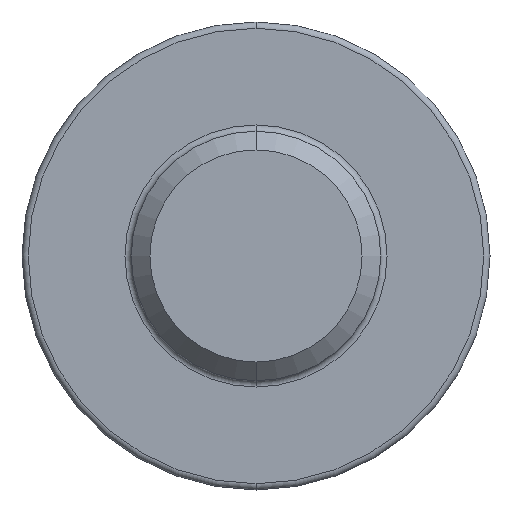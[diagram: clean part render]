
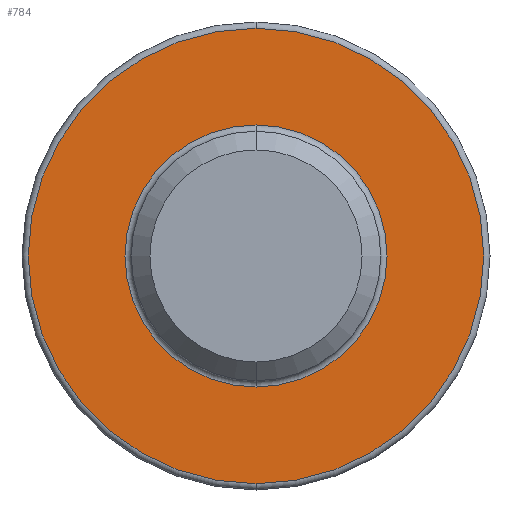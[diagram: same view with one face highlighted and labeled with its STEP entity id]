
A CAD part, front view. The second image highlights one B-rep face of the part: STEP entity #784.
In plain terms, the highlighted planar face has unit normal (0, -1, 0).
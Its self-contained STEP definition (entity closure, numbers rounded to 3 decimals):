
#47 = EDGE_CURVE ( 'NONE', #586, #352, #636, .T. ) ;
#57 = AXIS2_PLACEMENT_3D ( 'NONE', #191, #854, #395 ) ;
#65 = CARTESIAN_POINT ( 'NONE',  ( 0., -2.4, 2.1 ) ) ;
#72 = DIRECTION ( 'NONE',  ( 0., 0., 1. ) ) ;
#114 = DIRECTION ( 'NONE',  ( 0., 0., 1. ) ) ;
#120 = VERTEX_POINT ( 'NONE', #413 ) ;
#139 = DIRECTION ( 'NONE',  ( 0., -1., 0. ) ) ;
#145 = ORIENTED_EDGE ( 'NONE', *, *, #47, .T. ) ;
#166 = AXIS2_PLACEMENT_3D ( 'NONE', #666, #657, #800 ) ;
#170 = ORIENTED_EDGE ( 'NONE', *, *, #533, .T. ) ;
#191 = CARTESIAN_POINT ( 'NONE',  ( 2., -2.4, 0. ) ) ;
#197 = DIRECTION ( 'NONE',  ( 0., 1., 0. ) ) ;
#234 = CIRCLE ( 'NONE', #166, 3.65 ) ;
#278 = ORIENTED_EDGE ( 'NONE', *, *, #804, .T. ) ;
#300 = AXIS2_PLACEMENT_3D ( 'NONE', #798, #197, #72 ) ;
#304 = DIRECTION ( 'NONE',  ( 0., 1., 0. ) ) ;
#336 = EDGE_CURVE ( 'NONE', #352, #586, #485, .T. ) ;
#352 = VERTEX_POINT ( 'NONE', #572 ) ;
#392 = DIRECTION ( 'NONE',  ( 0., 0., 1. ) ) ;
#393 = ORIENTED_EDGE ( 'NONE', *, *, #336, .T. ) ;
#395 = DIRECTION ( 'NONE',  ( 0., 0., 1. ) ) ;
#413 = CARTESIAN_POINT ( 'NONE',  ( 0., -2.4, 3.65 ) ) ;
#435 = CARTESIAN_POINT ( 'NONE',  ( 0., -2.4, 0. ) ) ;
#444 = VERTEX_POINT ( 'NONE', #811 ) ;
#485 = CIRCLE ( 'NONE', #528, 2.1 ) ;
#488 = AXIS2_PLACEMENT_3D ( 'NONE', #671, #139, #392 ) ;
#503 = CIRCLE ( 'NONE', #488, 3.65 ) ;
#527 = PLANE ( 'NONE',  #57 ) ;
#528 = AXIS2_PLACEMENT_3D ( 'NONE', #435, #304, #114 ) ;
#533 = EDGE_CURVE ( 'NONE', #120, #444, #503, .T. ) ;
#572 = CARTESIAN_POINT ( 'NONE',  ( 0., -2.4, -2.1 ) ) ;
#583 = FACE_BOUND ( 'NONE', #725, .T. ) ;
#586 = VERTEX_POINT ( 'NONE', #65 ) ;
#633 = EDGE_LOOP ( 'NONE', ( #170, #278 ) ) ;
#636 = CIRCLE ( 'NONE', #300, 2.1 ) ;
#653 = FACE_OUTER_BOUND ( 'NONE', #633, .T. ) ;
#657 = DIRECTION ( 'NONE',  ( 0., -1., 0. ) ) ;
#666 = CARTESIAN_POINT ( 'NONE',  ( 0., -2.4, 0. ) ) ;
#671 = CARTESIAN_POINT ( 'NONE',  ( 0., -2.4, 0. ) ) ;
#725 = EDGE_LOOP ( 'NONE', ( #145, #393 ) ) ;
#784 = ADVANCED_FACE ( 'NONE', ( #583, #653 ), #527, .F. ) ;
#798 = CARTESIAN_POINT ( 'NONE',  ( 0., -2.4, 0. ) ) ;
#800 = DIRECTION ( 'NONE',  ( 0., 0., 1. ) ) ;
#804 = EDGE_CURVE ( 'NONE', #444, #120, #234, .T. ) ;
#811 = CARTESIAN_POINT ( 'NONE',  ( 0., -2.4, -3.65 ) ) ;
#854 = DIRECTION ( 'NONE',  ( 0., 1., 0. ) ) ;
